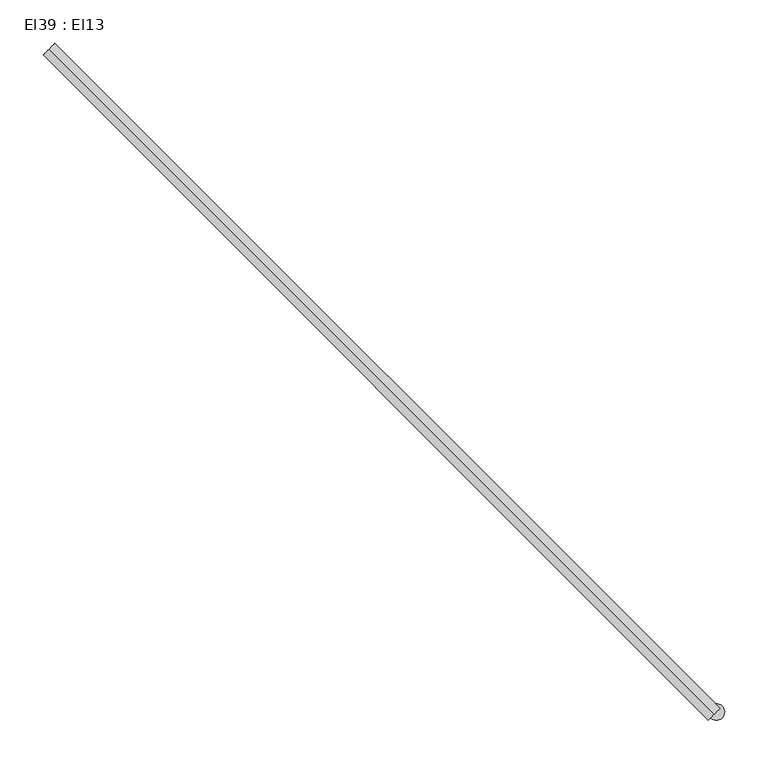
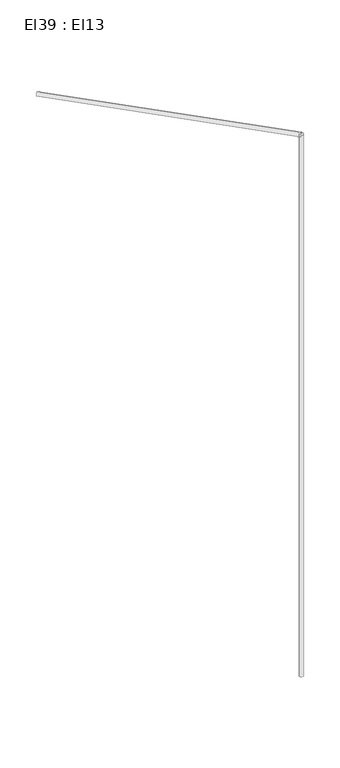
"""IFC4 building model written with IfcOpenShell, lengths in millimetres: cable carrier segment geometry, El39 : El13."""

from ifc_helpers import new_model, si_unit, point, frame, frame_2d, origin, place, context, project, spatial, circle_curve, trimmed, segment, composite_curve, outline, extrude, source, transform, mapped, element, save


def el39_el13_a97d6b42(model_context):
    return source(origin(), model_context, "Body", "SweptSolid", [
        extrude(outline(composite_curve([segment(trimmed(circle_curve(frame_2d((5364.4776511, 2628.8901745)), 9.5), [point((5354.9776511, 2628.8901745))], [point((5373.9776511, 2628.8901745))], False, "CARTESIAN"), True, "CONTINUOUS"), segment(trimmed(circle_curve(frame_2d((5364.4776511, 2628.8901745)), 9.5), [point((5373.9776511, 2628.8901745))], [point((5354.9776511, 2628.8901745))], False, "CARTESIAN"), True, "CONTINUOUS")], self_intersect=False)), frame((0.0, 0.0, 1830.0), z_axis=(0.0, 0.0, 1.0), x_axis=(1.0, 0.0, 0.0)), (0.0, 0.0, 1.0), 2620.0),
        extrude(outline(composite_curve([segment(trimmed(circle_curve(frame_2d((0.0, -9.5)), 9.5), [point((0.0, -19.0))], [point((0.0, 0.0))], False, "CARTESIAN"), True, "CONTINUOUS"), segment(trimmed(circle_curve(frame_2d((0.0, -9.5)), 9.5), [point((0.0, 0.0))], [point((0.0, -19.0))], False, "CARTESIAN"), True, "CONTINUOUS")], self_intersect=False)), frame((5361.8884275, 2626.2923981, 4459.5), z_axis=(-0.7071067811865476, 0.7071067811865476, 0.0), x_axis=(-0.7071067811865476, -0.7071067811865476, 0.0)), (0.0, 0.0, 1.0), 1085.27),
    ])


if __name__ == "__main__":
    model = new_model("IFC4")
    model_context = context("Model", 3, world=origin())
    ifc_project = project(units=[si_unit("LENGTHUNIT", "METRE", prefix="MILLI")], contexts=[model_context])
    site = spatial("IfcSite", under=ifc_project)
    building = spatial("IfcBuilding", under=site)
    placement = place(None, origin())
    el39_el13_shape = el39_el13_a97d6b42(model_context)
    element("IfcCableCarrierSegment", 1, ObjectType="El39 : El13", at=placement, inside=building, context=model_context, shape_type="MappedRepresentation", body=[
        mapped(el39_el13_shape, transform((0.0, 0.0, 0.0), x_axis=(1.0, 0.0, 0.0), y_axis=(0.0, 1.0, 0.0), z_axis=(0.0, 0.0, 1.0))),
    ])
    save(model, "model.ifc")
